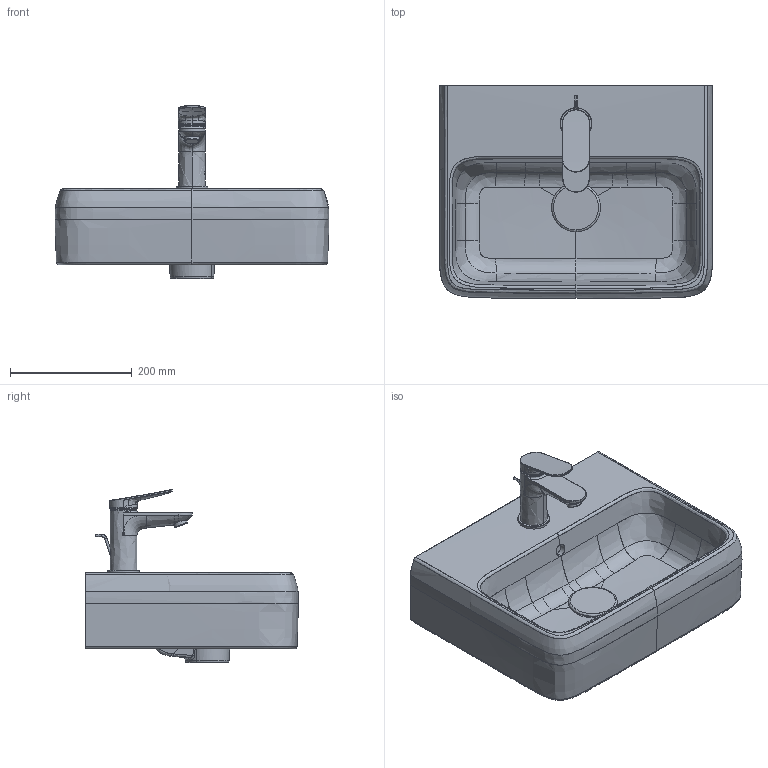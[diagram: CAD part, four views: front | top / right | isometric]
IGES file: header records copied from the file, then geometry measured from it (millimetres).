
Global section: file name: d:\users\matthias.isele\Desktop\Planungsdaten_erstellen\Keramik\Qatego\074645\3D\074645.igs; native system: Rhinoceros ( Sep 13 2016 ); preprocessor: Trout Lake IGES 012 Sep 13 2016; date: 221205.133059; units: millimetre
Bounding box: 450 x 350 x 284.47 mm (x, y, z)
Surface area: 717038.9 mm2 (no closed solid volume)
Topology: 0 solids, 0 shells, 478 faces, 4126 edges, 4121 vertices
Faces by surface type: bspline 478
